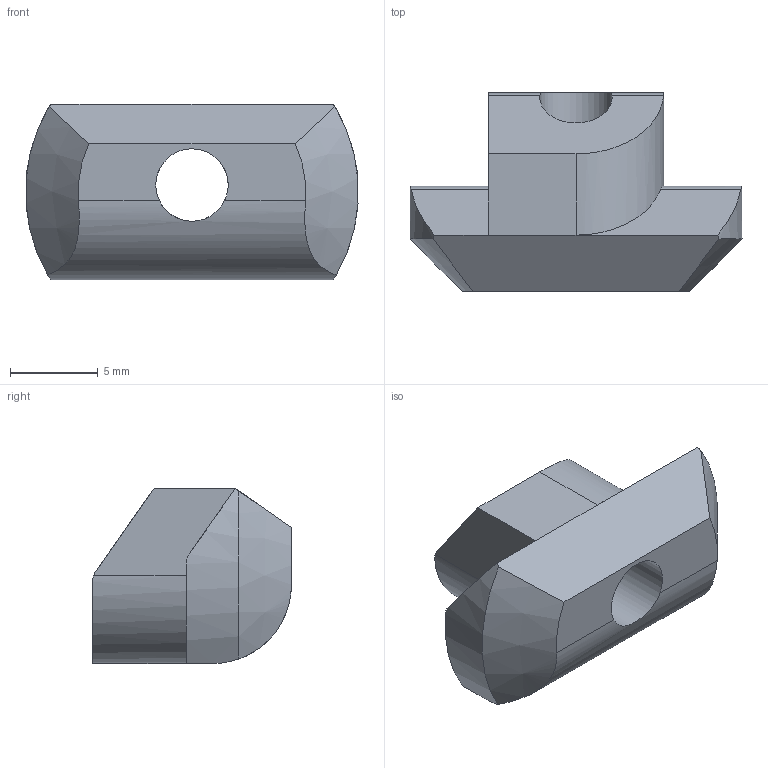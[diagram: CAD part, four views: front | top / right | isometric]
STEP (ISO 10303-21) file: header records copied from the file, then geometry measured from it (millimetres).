
FILE_DESCRIPTION(/* description */ ('Inserto per messa a terra cava 10 M5'),/* implementation_level */ '2;1');
FILE_NAME(/* name */ 'C:\Users\Stefan.Nesic\Desktop\01010STEP\EN10-5.stp',/* time_stamp */ '2022-06-17T14:55:30+02:00',/* author */ ('USER'),/* organization */ ('Microsoft'),/* preprocessor_version */ 'ST-DEVELOPER v18.1',/* originating_system */ 'Autodesk Inventor 2021',/* authorisation */ '');
FILE_SCHEMA (('AUTOMOTIVE_DESIGN { 1 0 10303 214 3 1 1 }'));
Length unit declared in the file: millimetre
Products named in the file (1): EN10-5
Bounding box: 18.96 x 11.34 x 10 mm (x, y, z)
Volume: 1094.6 mm3; surface area: 825.7 mm2
Topology: 1 solids, 1 shells, 24 faces, 70 edges, 46 vertices
Faces by surface type: plane 12, cylinder 10, cone 2
Full cylindrical faces by diameter (mm): 4.134 x1
Entity records: 934 total; most frequent: CARTESIAN_POINT 259, ORIENTED_EDGE 140, DIRECTION 129, EDGE_CURVE 70, AXIS2_PLACEMENT_3D 48, VERTEX_POINT 46, LINE 33, VECTOR 33
